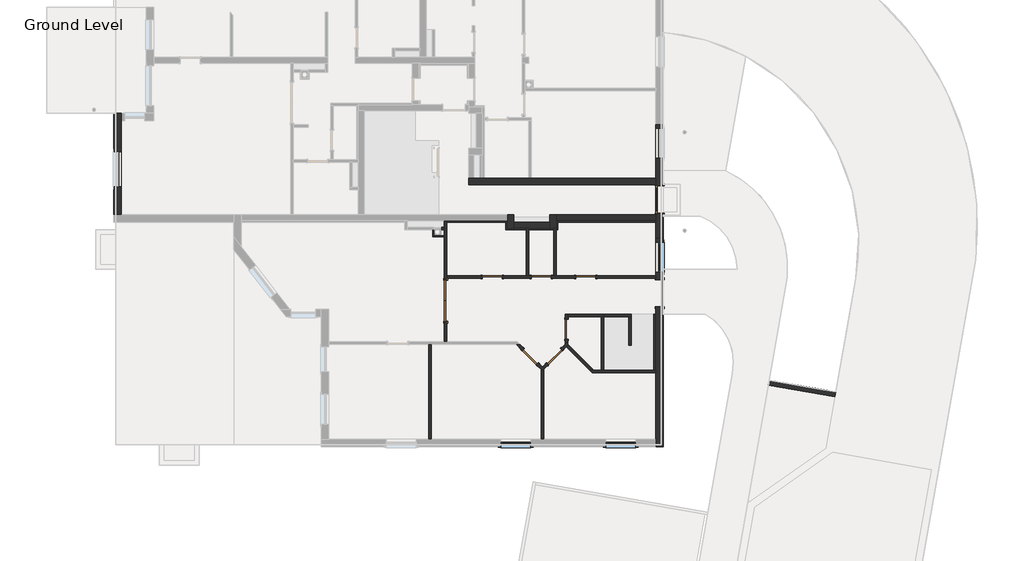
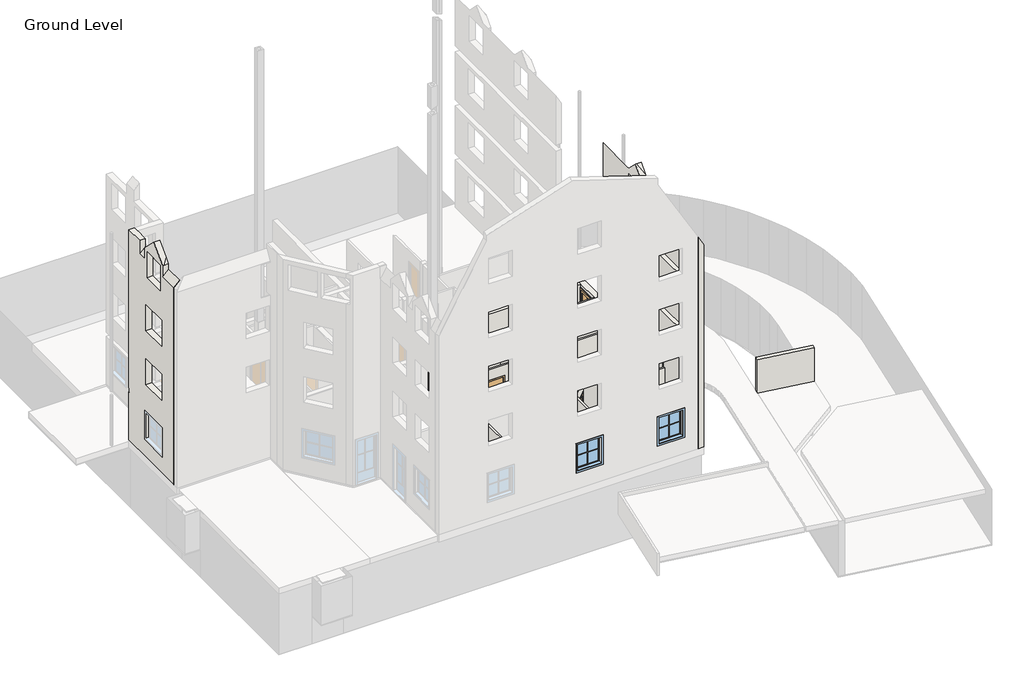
# One storey, part 2 of 6: 34 walls, 9 doors, 3 windows.
"""IFC4 building model written with IfcOpenShell, lengths in millimetres."""

from ifc_helpers import new_model, si_unit, frame, origin, origin_with_axes, place, context, project, spatial, polyline, outline, extrude, faceted_brep, transform, mapped, element, save
from components import m_double_flush_1640_x_2000mm_b55f45f4, m_single_glass_3_1100_x_2400mm_ddb7a374, m_single_glass_3_1100_x_2400mm_4252e609, standard_door_sd_800x2000_6a16926d, standard_door_sd_800x2000_80f4ff25, standard_window_with_mullions_80486b60

model = new_model("IFC4")

# Units and contexts
model_context = context("Model", 3, world=origin())
ifc_project = project(units=[si_unit("LENGTHUNIT", "METRE", prefix="MILLI")], contexts=[model_context])

# Site, building, storey
site = spatial("IfcSite", under=ifc_project)
building = spatial("IfcBuilding", under=site)
storey = spatial("IfcBuildingStorey", under=building, Name="Ground Level", Elevation=0.0)

# Doors
placement = place(None, origin())
m_double_flush_1640_x_2000mm_shape = m_double_flush_1640_x_2000mm_b55f45f4(model_context)
element("IfcDoor", 1, ObjectType="M_Double-Flush : 1640 x 2000mm", at=placement, inside=storey, context=model_context, shape_type="MappedRepresentation", body=[
    mapped(m_double_flush_1640_x_2000mm_shape, transform((642.8037835, -5286.2589377, 0.0), x_axis=(0.0, -1.0, 0.0), y_axis=(1.0, 0.0, 0.0), z_axis=(0.0, 0.0, 1.0))),
])
m_single_glass_3_1100_x_2400mm_shape = m_single_glass_3_1100_x_2400mm_ddb7a374(model_context)
element("IfcDoor", 2, ObjectType="M_Single-Glass 3 : 1100 x 2400mm", at=placement, inside=storey, context=model_context, shape_type="MappedRepresentation", body=[
    mapped(m_single_glass_3_1100_x_2400mm_shape, transform((9212.8087835, -1232.3709459, 0.0), x_axis=(0.0, -1.0, 0.0), y_axis=(1.0, 0.0, 0.0), z_axis=(0.0, 0.0, 1.0))),
])
m_single_glass_3_1100_x_2400mm_2_shape = m_single_glass_3_1100_x_2400mm_4252e609(model_context)
element("IfcDoor", 3, ObjectType="M_Single-Glass 3 : 1100 x 2400mm", at=placement, inside=storey, context=model_context, shape_type="MappedRepresentation", body=[
    mapped(m_single_glass_3_1100_x_2400mm_2_shape, transform((9212.7987835, -4984.0530346, 0.0), x_axis=(0.0, -1.0, 0.0), y_axis=(1.0, 0.0, 0.0), z_axis=(0.0, 0.0, 1.0))),
])
standard_door_sd_800x2000_shape = standard_door_sd_800x2000_6a16926d(model_context)
element("IfcDoor", 4, ObjectType="Standard Door : SD 800x2000", at=placement, inside=storey, context=model_context, shape_type="MappedRepresentation", body=[
    mapped(standard_door_sd_800x2000_shape, transform((4029.418524, -7528.2750083, 0.0), x_axis=(0.7071067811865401, -0.707106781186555, 0.0), y_axis=(0.707106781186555, 0.7071067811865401, 0.0), z_axis=(0.0, 0.0, 1.0))),
])
element("IfcDoor", 5, ObjectType="Standard Door : SD 800x2000", at=placement, inside=storey, context=model_context, shape_type="MappedRepresentation", body=[
    mapped(standard_door_sd_800x2000_shape, transform((2512.8043755, -4332.3709459, 0.0), x_axis=(-1.0, 0.0, 0.0), y_axis=(0.0, -1.0, 0.0), z_axis=(0.0, 0.0, 1.0))),
])
element("IfcDoor", 6, ObjectType="Standard Door : SD 800x2000", at=placement, inside=storey, context=model_context, shape_type="MappedRepresentation", body=[
    mapped(standard_door_sd_800x2000_shape, transform((5476.650957, -6431.4105659, 0.0), x_axis=(0.0, -1.0, 0.0), y_axis=(1.0, 0.0, 0.0), z_axis=(0.0, 0.0, 1.0))),
])
standard_door_sd_800x2000_2_shape = standard_door_sd_800x2000_80f4ff25(model_context)
element("IfcDoor", 7, ObjectType="Standard Door : SD 800x2000", at=placement, inside=storey, context=model_context, shape_type="MappedRepresentation", body=[
    mapped(standard_door_sd_800x2000_2_shape, transform((5000.6899717, -7523.7740796, 0.0), x_axis=(-0.7071067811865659, -0.707106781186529, 0.0), y_axis=(0.707106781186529, -0.7071067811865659, 0.0), z_axis=(0.0, 0.0, 1.0))),
])
element("IfcDoor", 8, ObjectType="Standard Door : SD 800x2000", at=placement, inside=storey, context=model_context, shape_type="MappedRepresentation", body=[
    mapped(standard_door_sd_800x2000_2_shape, transform((6244.2182602, -4332.3709459, 0.0), x_axis=(1.0, 0.0, 0.0), y_axis=(0.0, 1.0, 0.0), z_axis=(0.0, 0.0, 1.0))),
])
element("IfcDoor", 9, ObjectType="Standard Door : SD 800x2000", at=placement, inside=storey, context=model_context, shape_type="MappedRepresentation", body=[
    mapped(standard_door_sd_800x2000_2_shape, transform((4469.5421305, -4332.3709459, 0.0), x_axis=(1.0, 0.0, 0.0), y_axis=(0.0, 1.0, 0.0), z_axis=(0.0, 0.0, 1.0))),
])

# Walls
element("IfcWall", 10, ObjectType="Exterior - 250+50mm", at=placement, inside=storey, context=model_context, shape_type="Brep", body=[
    faceted_brep([(-12337.1962165, 2217.6290541, 0.0), (-12337.1962165, 1917.6290541, 0.0), (-12337.1962165, -1832.3709459, 0.0), (-12637.1962165, -1832.3709459, 0.0), (-12637.1962165, 2217.6290541, 0.0), (-12337.1962165, 2217.6290541, 2630.0), (-12337.1962165, 1917.6290541, 2630.0), (-12337.1962165, -1832.3709459, 2630.0), (-12337.1962165, -720.1346317, 1000.0), (-12337.1962165, -720.1346317, 2400.0), (-12337.1962165, 679.8653683, 2400.0), (-12337.1962165, 679.8653683, 1000.0), (-12337.1962165, -820.1346317, 11350.0), (-12337.1962165, -820.1346317, 11050.0), (-12337.1962165, -1832.3709459, 11050.0), (-12337.1962165, -1832.3709459, 8850.0), (-12337.1962165, 1917.6290541, 8850.0), (-12337.1962165, 2167.6290541, 8850.0), (-12337.1962165, 2167.6290541, 8530.0), (-12337.1962165, 1917.6290541, 8530.0), (-12337.1962165, -1832.3709459, 8530.0), (-12337.1962165, -1832.3709459, 5900.0), (-12337.1962165, 1917.6290541, 5900.0), (-12337.1962165, 2167.6290541, 5900.0), (-12337.1962165, 2167.6290541, 5580.0), (-12337.1962165, 1917.6290541, 5580.0), (-12337.1962165, -1832.3709459, 5580.0), (-12337.1962165, -1832.3709459, 2950.0), (-12337.1962165, 1917.6290541, 2950.0), (-12337.1962165, 2167.6290541, 2950.0), (-12337.1962165, 2167.6290541, 2850.0), (-12337.1962165, 2217.6290541, 2850.0), (-12337.1962165, 2217.6290541, 11480.0), (-12337.1962165, 1917.6290541, 11480.0), (-12337.1962165, 1237.6290541, 11480.0), (-12337.1962165, 1237.6290541, 11050.0), (-12337.1962165, 779.8653683, 11050.0), (-12337.1962165, 779.8653683, 11350.0), (-12337.1962165, 570.7484858, 11559.1168825), (-12337.1962165, -20.1346317, 12150.0), (-12337.1962165, -611.0177493, 11559.1168825), (-12337.1962165, -620.1346317, 9850.0), (-12337.1962165, -620.1346317, 11250.0), (-12337.1962165, 579.8653683, 11250.0), (-12337.1962165, 579.8653683, 9850.0), (-12337.1962165, -720.1346317, 6900.0), (-12337.1962165, -720.1346317, 8300.0), (-12337.1962165, 679.8653683, 8300.0), (-12337.1962165, 679.8653683, 6900.0), (-12337.1962165, -720.1346317, 3950.0), (-12337.1962165, -720.1346317, 5350.0), (-12337.1962165, 679.8653683, 5350.0), (-12337.1962165, 679.8653683, 3950.0), (-12637.1962165, -1832.3709459, 10750.0), (-12637.1962165, -820.1346317, 10750.0), (-12637.1962165, -820.1346317, 11350.0), (-12637.1962165, -20.1346317, 12150.0), (-12637.1962165, 779.8653683, 11350.0), (-12637.1962165, 779.8653683, 10750.0), (-12637.1962165, 1237.6290541, 10750.0), (-12637.1962165, 1237.6290541, 11480.0), (-12637.1962165, 2217.6290541, 11480.0), (-12637.1962165, 2217.6290541, 2850.0), (-12637.1962165, 2167.6290541, 2850.0), (-12637.1962165, 2167.6290541, 2630.0), (-12637.1962165, 2217.6290541, 2630.0), (-12637.1962165, -620.1346317, 11250.0), (-12637.1962165, -620.1346317, 9850.0), (-12637.1962165, 579.8653683, 9850.0), (-12637.1962165, 579.8653683, 11250.0), (-12637.1962165, -720.1346317, 8300.0), (-12637.1962165, -720.1346317, 6900.0), (-12637.1962165, 679.8653683, 6900.0), (-12637.1962165, 679.8653683, 8300.0), (-12637.1962165, -720.1346317, 5350.0), (-12637.1962165, -720.1346317, 3950.0), (-12637.1962165, 679.8653683, 3950.0), (-12637.1962165, 679.8653683, 5350.0), (-12637.1962165, -720.1346317, 2400.0), (-12637.1962165, -720.1346317, 1000.0), (-12637.1962165, 679.8653683, 1000.0), (-12637.1962165, 679.8653683, 2400.0), (-12587.1962165, -1832.3709459, 2630.0), (-12587.1962165, -1832.3709459, 2950.0), (-12587.1962165, -1832.3709459, 5580.0), (-12587.1962165, -1832.3709459, 5900.0), (-12587.1962165, -1832.3709459, 8530.0), (-12587.1962165, -1832.3709459, 8850.0), (-12546.313099, -820.1346317, 11350.0), (-12546.313099, 779.8653683, 11350.0), (-12587.1962165, 2167.6290541, 2630.0), (-12587.1962165, 2167.6290541, 2950.0), (-12587.1962165, 2167.6290541, 2850.0), (-12587.1962165, 2167.6290541, 5580.0), (-12587.1962165, 2167.6290541, 5900.0), (-12587.1962165, 2167.6290541, 8530.0), (-12587.1962165, 2167.6290541, 8850.0)], [[[0, 1, 2, 3, 4]], [[2, 1, 0, 5, 6, 7], [8, 9, 10, 11]], [[12, 13, 14, 15, 16, 17, 18, 19, 20, 21, 22, 23, 24, 25, 26, 27, 28, 29, 30, 31, 32, 33, 34, 35, 36, 37, 38, 39, 40], [41, 42, 43, 44], [45, 46, 47, 48], [49, 50, 51, 52]], [[4, 3, 53, 54, 55, 56, 57, 58, 59, 60, 61, 62, 63, 64, 65], [66, 67, 68, 69], [70, 71, 72, 73], [74, 75, 76, 77], [78, 79, 80, 81]], [[53, 3, 2, 7, 82, 83, 27, 26, 84, 85, 21, 20, 86, 87, 15, 14]], [[0, 4, 65, 5]], [[61, 32, 31, 62]], [[55, 54, 13, 12, 88]], [[37, 36, 58, 57, 89]], [[35, 34, 60, 59]], [[38, 37, 89]], [[36, 35, 59, 58]], [[12, 40, 88]], [[53, 14, 13, 54]], [[55, 88, 40, 39, 56]], [[89, 57, 56, 39, 38]], [[34, 33, 32, 61, 60]], [[42, 41, 67, 66]], [[43, 42, 66, 69]], [[44, 43, 69, 68]], [[41, 44, 68, 67]], [[46, 45, 71, 70]], [[47, 46, 70, 73]], [[48, 47, 73, 72]], [[45, 48, 72, 71]], [[50, 49, 75, 74]], [[51, 50, 74, 77]], [[52, 51, 77, 76]], [[49, 52, 76, 75]], [[9, 8, 79, 78]], [[10, 9, 78, 81]], [[11, 10, 81, 80]], [[8, 11, 80, 79]], [[90, 82, 7, 6, 5, 65, 64]], [[83, 91, 29, 28, 27]], [[82, 90, 92, 91, 83]], [[29, 91, 92, 30]], [[92, 63, 62, 31, 30]], [[90, 64, 63, 92]], [[24, 93, 84, 26, 25]], [[85, 94, 23, 22, 21]], [[93, 94, 85, 84]], [[94, 93, 24, 23]], [[18, 95, 86, 20, 19]], [[87, 96, 17, 16, 15]], [[95, 96, 87, 86]], [[96, 95, 18, 17]]]),
])
element("IfcWall", 11, ObjectType="Exterior - 250+50mm", at=placement, inside=storey, context=model_context, shape_type="Brep", body=[
    faceted_brep([(9062.8037835, 1767.6290541, 0.0), (9062.8037835, 1767.6290541, 2630.0), (9312.8037835, 1767.6290541, 2630.0), (9362.8037835, 1767.6290541, 2630.0), (9362.8037835, 1767.6290541, 0.0), (9062.8037835, -2782.3709459, 2630.0), (9062.8037835, -2782.3709459, 0.0), (9362.8037835, -2782.3709459, 0.0), (9362.8037835, -2782.3709459, 2630.0), (9312.8037835, -2782.3709459, 2630.0), (9062.8037835, -2147.3709459, 0.0), (9062.8037835, -2082.3709459, 0.0), (9062.8037835, -1832.3709459, 0.0), (9062.8037835, -1782.2469294, 0.0), (9362.8037835, -1782.2469294, 0.0), (9062.8037835, -682.2469294, 0.0), (9062.8037835, -632.3709459, 0.0), (9062.8037835, -382.3709459, 0.0), (9362.8037835, -682.2469294, 0.0), (9062.8037835, -1782.2469294, 2400.0), (9062.8037835, -2682.3709459, 2630.0), (9062.8037835, -2147.3709459, 2630.0), (9062.8037835, -2082.3709459, 2630.0), (9062.8037835, -1832.3709459, 2630.0), (9062.8037835, -632.3709459, 2630.0), (9062.8037835, -382.3709459, 2630.0), (9062.8037835, 1667.6290541, 2630.0), (9062.8037835, -682.2469294, 2400.0), (9062.8037835, 1617.6290519, 1000.0), (9062.8037835, 1617.6290519, 2400.0), (9062.8037835, 417.6290519, 2400.0), (9062.8037835, 417.6290519, 1000.0), (9362.8037835, -1782.2469294, 2400.0), (9362.8037835, -682.2469294, 2400.0), (9362.8037835, 1667.6290541, 2630.0), (9362.8037835, -2682.3709459, 2630.0), (9362.8037835, 1617.6290519, 1000.0), (9362.8037835, 417.6290519, 1000.0), (9362.8037835, 417.6290519, 2400.0), (9362.8037835, 1617.6290519, 2400.0)], [[[0, 1, 2, 3, 4]], [[5, 6, 7, 8, 9]], [[6, 10, 11, 12, 13, 14, 7]], [[15, 16, 17, 0, 4, 18]], [[19, 13, 12, 11, 10, 6, 5, 20, 21, 22, 23, 24, 25, 26, 1, 0, 17, 16, 15, 27], [28, 29, 30, 31]], [[7, 14, 32, 33, 18, 4, 3, 34, 35, 8], [36, 37, 38, 39]], [[20, 5, 9, 8, 35]], [[1, 26, 34, 3, 2]], [[26, 25, 24, 23, 22, 21, 20, 35, 34]], [[32, 14, 13, 19]], [[33, 32, 19, 27]], [[18, 33, 27, 15]], [[29, 28, 36, 39]], [[30, 29, 39, 38]], [[31, 30, 38, 37]], [[28, 31, 37, 36]]]),
])
element("IfcWall", 12, ObjectType="Exterior - 250+50mm", at=placement, inside=storey, context=model_context, shape_type="Brep", body=[
    faceted_brep([(9062.8037835, -2782.3709459, 0.0), (9362.8037835, -2782.3709459, 0.0), (9362.8037835, -4433.9290181, 0.0), (9062.8037835, -4433.9290181, 0.0), (9062.8037835, -4382.3709459, 0.0), (9062.8037835, -4282.3709459, 0.0), (9362.8037835, -11132.3709459, 0.0), (9062.8037835, -11132.3709459, 0.0), (9062.8037835, -10832.3709459, 0.0), (9062.8037835, -8162.3709459, 0.0), (9062.8037835, -8062.3709459, 0.0), (9062.8037835, -5533.9290181, 0.0), (9362.8037835, -5533.9290181, 0.0), (9062.8037835, -11132.3709459, 11562.4355653), (9062.8037835, -10832.3709459, 11562.4355653), (9062.8037835, -6324.0530367, 11562.4355653), (9062.8037835, -6111.6174714, 11562.4355653), (9062.8037835, -5524.0530367, 12150.0), (9062.8037835, -5391.6174714, 12017.5644347), (9062.8037835, -4936.488602, 11562.4355653), (9062.8037835, -4724.0530367, 11562.4355653), (9062.8037835, -2632.3709459, 11562.4355653), (9062.8037835, -2632.3709459, 11480.0), (9062.8037835, -2632.3709459, 8850.0), (9062.8037835, -2932.3709459, 8850.0), (9062.8037835, -4602.3709459, 8850.0), (9062.8037835, -4702.3709459, 8850.0), (9062.8037835, -6932.3709459, 8850.0), (9062.8037835, -7032.3709459, 8850.0), (9062.8037835, -10832.3709459, 8850.0), (9062.8037835, -11082.3709459, 8850.0), (9062.8037835, -11082.3709459, 8530.0), (9062.8037835, -10832.3709459, 8530.0), (9062.8037835, -7232.3709459, 8530.0), (9062.8037835, -6982.3709459, 8530.0), (9062.8037835, -2932.3709459, 8530.0), (9062.8037835, -2632.3709459, 8530.0), (9062.8037835, -2632.3709459, 5900.0), (9062.8037835, -2932.3709459, 5900.0), (9062.8037835, -6982.3709459, 5900.0), (9062.8037835, -7232.3709459, 5900.0), (9062.8037835, -10832.3709459, 5900.0), (9062.8037835, -11082.3709459, 5900.0), (9062.8037835, -11082.3709459, 5580.0), (9062.8037835, -10832.3709459, 5580.0), (9062.8037835, -7232.3709459, 5580.0), (9062.8037835, -6982.3709459, 5580.0), (9062.8037835, -2932.3709459, 5580.0), (9062.8037835, -2932.3709459, 2950.0), (9062.8037835, -2782.3709459, 2950.0), (9062.8037835, -2782.3709459, 2630.0), (9062.8037835, -4433.9290181, 2400.0), (9062.8037835, -5533.9290181, 2400.0), (9062.8037835, -4924.0530367, 9850.0), (9062.8037835, -4924.0530367, 11250.0), (9062.8037835, -6124.0530367, 11250.0), (9062.8037835, -6124.0530367, 9850.0), (9062.8037835, -4924.0530367, 6900.0), (9062.8037835, -4924.0530367, 8300.0), (9062.8037835, -6124.0530367, 8300.0), (9062.8037835, -6124.0530367, 6900.0), (9062.8037835, -4924.0530367, 3950.0), (9062.8037835, -4924.0530367, 5350.0), (9062.8037835, -6124.0530367, 5350.0), (9062.8037835, -6124.0530367, 3950.0), (9062.8037835, -2938.2419433, 1000.0), (9062.8037835, -2938.2419433, 2400.0), (9062.8037835, -4138.2419433, 2400.0), (9062.8037835, -4138.2419433, 1000.0), (9362.8037835, -11132.3709459, 11042.820323), (9362.8037835, -5533.9290181, 2400.0), (9362.8037835, -4433.9290181, 2400.0), (9362.8037835, -2782.3709459, 2630.0), (9362.8037835, -2782.3709459, 2950.0), (9362.8037835, -2932.3709459, 2950.0), (9362.8037835, -2932.3709459, 5580.0), (9362.8037835, -2932.3709459, 5900.0), (9362.8037835, -2782.3709459, 5900.0), (9362.8037835, -2632.3709459, 5900.0), (9362.8037835, -2632.3709459, 8530.0), (9362.8037835, -2682.3709459, 8530.0), (9362.8037835, -2782.3709459, 8530.0), (9362.8037835, -2782.3709459, 8850.0), (9362.8037835, -2632.3709459, 8850.0), (9362.8037835, -2632.3709459, 11042.820323), (9362.8037835, -4724.0530367, 11042.820323), (9362.8037835, -4724.0530367, 11350.0), (9362.8037835, -5136.8733598, 11762.820323), (9362.8037835, -5524.0530367, 12150.0), (9362.8037835, -5911.2327137, 11762.820323), (9362.8037835, -6324.0530367, 11350.0), (9362.8037835, -6324.0530367, 11042.820323), (9362.8037835, -4924.0530367, 11250.0), (9362.8037835, -4924.0530367, 9850.0), (9362.8037835, -6124.0530367, 9850.0), (9362.8037835, -6124.0530367, 11250.0), (9362.8037835, -4924.0530367, 8300.0), (9362.8037835, -4924.0530367, 6900.0), (9362.8037835, -6124.0530367, 6900.0), (9362.8037835, -6124.0530367, 8300.0), (9362.8037835, -4924.0530367, 5350.0), (9362.8037835, -4924.0530367, 3950.0), (9362.8037835, -6124.0530367, 3950.0), (9362.8037835, -6124.0530367, 5350.0), (9362.8037835, -2938.2419433, 2400.0), (9362.8037835, -2938.2419433, 1000.0), (9362.8037835, -4138.2419433, 1000.0), (9362.8037835, -4138.2419433, 2400.0), (9312.8037835, -2932.3709459, 5900.0), (9312.8037835, -11082.3709459, 5900.0), (9312.8037835, -2932.3709459, 5580.0), (9185.4535143, -4724.0530367, 11350.0), (9185.4535143, -6324.0530367, 11350.0), (9139.2654927, -5524.0530367, 12150.0), (9312.8037835, -11082.3709459, 5580.0), (9312.8037835, -2782.3709459, 8530.0), (9312.8037835, -11082.3709459, 8530.0), (9312.8037835, -2782.3709459, 8850.0), (9312.8037835, -11082.3709459, 8850.0)], [[[0, 1, 2, 3, 4, 5]], [[6, 7, 8, 9, 10, 11, 12]], [[7, 13, 14, 15, 16, 17, 18, 19, 20, 21, 22, 23, 24, 25, 26, 27, 28, 29, 30, 31, 32, 33, 34, 35, 36, 37, 38, 39, 40, 41, 42, 43, 44, 45, 46, 47, 48, 49, 50, 0, 5, 4, 3, 51, 52, 11, 10, 9, 8], [53, 54, 55, 56], [57, 58, 59, 60], [61, 62, 63, 64], [65, 66, 67, 68]], [[69, 6, 12, 70, 71, 2, 1, 72, 73, 74, 75, 76, 77, 78, 79, 80, 81, 82, 83, 84, 85, 86, 87, 88, 89, 90, 91], [92, 93, 94, 95], [96, 97, 98, 99], [100, 101, 102, 103], [104, 105, 106, 107]], [[13, 7, 6, 69]], [[1, 0, 50, 49, 73, 72]], [[74, 73, 49, 48]], [[37, 78, 77, 76, 108, 109, 42, 41, 40, 39, 38]], [[74, 48, 47, 110, 108, 76, 75]], [[21, 84, 83, 23, 22]], [[78, 37, 36, 79]], [[86, 85, 111]], [[91, 90, 112]], [[89, 88, 113]], [[88, 87, 113]], [[15, 14, 13, 69, 91, 112, 16]], [[90, 89, 113, 17, 16, 112]], [[87, 86, 111, 19, 18, 17, 113]], [[84, 21, 20, 19, 111, 85]], [[70, 12, 11, 52]], [[71, 70, 52, 51]], [[2, 71, 51, 3]], [[53, 93, 92, 54]], [[54, 92, 95, 55]], [[55, 95, 94, 56]], [[93, 53, 56, 94]], [[58, 57, 97, 96]], [[59, 58, 96, 99]], [[60, 59, 99, 98]], [[57, 60, 98, 97]], [[62, 61, 101, 100]], [[63, 62, 100, 103]], [[64, 63, 103, 102]], [[61, 64, 102, 101]], [[66, 65, 105, 104]], [[67, 66, 104, 107]], [[68, 67, 107, 106]], [[65, 68, 106, 105]], [[43, 114, 110, 47, 46, 45, 44]], [[114, 109, 108, 110]], [[109, 114, 43, 42]], [[115, 81, 80, 79, 36, 35, 34, 33, 32, 31, 116]], [[117, 118, 30, 29, 28, 27, 26, 25, 24, 23, 83, 82]], [[81, 115, 117, 82]], [[115, 116, 118, 117]], [[118, 116, 31, 30]]]),
])
element("IfcWall", 13, ObjectType="Interior - 100mm", at=placement, inside=storey, context=model_context, shape_type="Brep", body=[
    faceted_brep([(592.8037835, -6932.3709459, 0.0), (592.8037835, -6106.2589377, 0.0), (692.8037835, -6106.2589377, 0.0), (692.8037835, -6932.3709459, 0.0), (592.8037835, -4466.2589377, 0.0), (592.8037835, -2712.3709459, 0.0), (592.8037835, -2682.3709459, 0.0), (592.8037835, -2432.3709459, 0.0), (592.8037835, -2332.3709459, 0.0), (592.8037835, -2082.3709459, 0.0), (692.8037835, -2082.3709459, 0.0), (692.8037835, -2147.3709459, 0.0), (692.8037835, -4466.2589377, 0.0), (592.8037835, -6106.2589377, 2000.0), (592.8037835, -6932.3709459, 2630.0), (592.8037835, -2432.3709459, 2630.0), (592.8037835, -2332.3709459, 2630.0), (592.8037835, -2082.3709459, 2630.0), (592.8037835, -4466.2589377, 2000.0), (692.8037835, -6106.2589377, 2000.0), (692.8037835, -4466.2589377, 2000.0), (692.8037835, -2082.3709459, 2630.0), (692.8037835, -2147.3709459, 2630.0), (692.8037835, -6932.3709459, 2630.0)], [[[0, 1, 2, 3]], [[4, 5, 6, 7, 8, 9, 10, 11, 12]], [[13, 1, 0, 14, 15, 16, 17, 9, 8, 7, 6, 5, 4, 18]], [[3, 2, 19, 20, 12, 11, 10, 21, 22, 23]], [[9, 17, 21, 10]], [[14, 0, 3, 23]], [[17, 16, 15, 14, 23, 22, 21]], [[19, 2, 1, 13]], [[20, 19, 13, 18]], [[12, 20, 18, 4]]]),
])
element("IfcWall", 14, ObjectType="Interior - 100mm", at=placement, inside=storey, context=model_context, shape_type="Brep", body=[
    faceted_brep([(4562.8037835, -8132.3709459, 0.0), (4462.8037835, -8032.3709459, 0.0), (4276.9058974, -7846.4730598, 0.0), (4347.6165755, -7775.7623817, 0.0), (4512.8037835, -7940.9495897, 0.0), (4562.8037835, -7990.9495897, 0.0), (4562.8037835, -8032.3709459, 0.0), (3711.2204724, -7280.7876349, 0.0), (3462.8037835, -7032.3709459, 0.0), (3604.2251397, -7032.3709459, 0.0), (3781.9311505, -7210.0769568, 0.0), (4276.9058974, -7846.4730598, 2000.0), (4562.8037835, -8132.3709459, 2630.0), (4462.8037835, -8032.3709459, 2630.0), (3462.8037835, -7032.3709459, 2630.0), (3711.2204724, -7280.7876349, 2000.0), (4347.6165755, -7775.7623817, 2000.0), (3781.9311505, -7210.0769568, 2000.0), (3604.2251397, -7032.3709459, 2630.0), (4512.8037835, -7940.9495897, 2630.0), (4562.8037835, -7990.9495897, 2630.0), (4562.8037835, -8032.3709459, 2630.0)], [[[0, 1, 2, 3, 4, 5, 6]], [[7, 8, 9, 10]], [[11, 2, 1, 0, 12, 13, 14, 8, 7, 15]], [[5, 4, 3, 16, 17, 10, 9, 18, 19, 20]], [[8, 14, 18, 9]], [[12, 0, 6, 5, 20, 21]], [[14, 13, 12, 21, 20, 19, 18]], [[16, 3, 2, 11]], [[17, 16, 11, 15]], [[10, 17, 15, 7]]]),
])
element("IfcWall", 15, ObjectType="Interior - 100mm", at=placement, inside=storey, context=model_context, shape_type="SweptSolid", body=[
    extrude(outline(polyline([(4462.8037835, -10832.3709459), (4462.8037835, -8032.3709459), (4562.8037835, -8132.3709459), (4562.8037835, -10832.3709459), (4462.8037835, -10832.3709459)])), origin_with_axes(), (0.0, 0.0, 1.0), 2630.0),
])
element("IfcWall", 16, ObjectType="Interior - 100mm", at=placement, inside=storey, context=model_context, shape_type="Brep", body=[
    faceted_brep([(4512.8037835, -7940.9495897, 0.0), (4682.4919202, -7771.261453, 0.0), (4753.2025983, -7841.9721311, 0.0), (4562.8037835, -8032.3709459, 0.0), (4562.8037835, -7990.9495897, 0.0), (5248.1773451, -7205.576028, 0.0), (5426.650957, -7027.1024161, 0.0), (5526.650957, -6927.1024161, 0.0), (5526.650957, -7027.1024161, 0.0), (5526.650957, -7068.5237723, 0.0), (5476.650957, -7118.5237723, 0.0), (5318.8880232, -7276.2867062, 0.0), (4753.2025983, -7841.9721311, 2000.0), (5318.8880232, -7276.2867062, 2000.0), (5526.650957, -7068.5237723, 2630.0), (5476.650957, -7118.5237723, 2630.0), (4562.8037835, -8032.3709459, 2630.0), (4682.4919202, -7771.261453, 2000.0), (4512.8037835, -7940.9495897, 2630.0), (5426.650957, -7027.1024161, 2630.0), (5526.650957, -6927.1024161, 2630.0), (5248.1773451, -7205.576028, 2000.0), (4562.8037835, -7990.9495897, 2630.0), (5526.650957, -7027.1024161, 2630.0)], [[[0, 1, 2, 3, 4]], [[5, 6, 7, 8, 9, 10, 11]], [[3, 2, 12, 13, 11, 10, 9, 14, 15, 16]], [[17, 1, 0, 18, 19, 20, 7, 6, 5, 21]], [[3, 16, 22, 4]], [[22, 18, 0, 4]], [[14, 9, 8, 7, 20, 23]], [[16, 15, 14, 23, 20, 19, 18, 22]], [[12, 2, 1, 17]], [[13, 12, 17, 21]], [[11, 13, 21, 5]]]),
])
element("IfcWall", 17, ObjectType="Interior - 100mm", at=placement, inside=storey, context=model_context, shape_type="Brep", body=[
    faceted_brep([(5426.650957, -7027.1024161, 0.0), (5426.650957, -6831.4105659, 0.0), (5526.650957, -6831.4105659, 0.0), (5526.650957, -6927.1024161, 0.0), (5426.650957, -6031.4105659, 0.0), (5426.650957, -5832.3709459, 0.0), (5526.650957, -5832.3709459, 0.0), (5526.650957, -5932.3709459, 0.0), (5526.650957, -6031.4105659, 0.0), (5526.650957, -6831.4105659, 2000.0), (5526.650957, -6031.4105659, 2000.0), (5526.650957, -5832.3709459, 2630.0), (5526.650957, -5932.3709459, 2630.0), (5526.650957, -6927.1024161, 2630.0), (5426.650957, -6831.4105659, 2000.0), (5426.650957, -7027.1024161, 2630.0), (5426.650957, -5832.3709459, 2630.0), (5426.650957, -6031.4105659, 2000.0)], [[[0, 1, 2, 3]], [[4, 5, 6, 7, 8]], [[3, 2, 9, 10, 8, 7, 6, 11, 12, 13]], [[14, 1, 0, 15, 16, 5, 4, 17]], [[3, 13, 15, 0]], [[11, 6, 5, 16]], [[13, 12, 11, 16, 15]], [[9, 2, 1, 14]], [[10, 9, 14, 17]], [[8, 10, 17, 4]]]),
])
element("IfcWall", 18, ObjectType="Interior - 100mm", at=placement, inside=storey, context=model_context, shape_type="Brep", body=[
    faceted_brep([(5526.650957, -5932.3709459, 0.0), (6862.8037835, -5932.3709459, 0.0), (6962.8037835, -5932.3709459, 0.0), (6962.8037835, -5932.3709459, 2630.0), (6862.8037835, -5932.3709459, 2630.0), (5526.650957, -5932.3709459, 2630.0), (5526.650957, -5832.3709459, 0.0), (5526.650957, -5832.3709459, 2630.0), (6962.8037835, -5832.3709459, 2630.0), (6962.8037835, -5832.3709459, 0.0)], [[[0, 1, 2, 3, 4, 5]], [[6, 7, 8, 9]], [[2, 1, 0, 6, 9]], [[3, 2, 9, 8]], [[0, 5, 7, 6]], [[5, 4, 3, 8, 7]]]),
])
element("IfcWall", 19, ObjectType="Interior - 100mm", at=placement, inside=storey, context=model_context, shape_type="SweptSolid", body=[
    extrude(outline(polyline([(6862.8037835, -8062.3709459), (6862.8037835, -5932.3709459), (6962.8037835, -5932.3709459), (6962.8037835, -8062.3709459), (6862.8037835, -8062.3709459)])), origin_with_axes(), (0.0, 0.0, 1.0), 2630.0),
])
element("IfcWall", 20, ObjectType="Interior - 100mm", at=placement, inside=storey, context=model_context, shape_type="Brep", body=[
    faceted_brep([(6520.4981306, -8162.3709459, 0.0), (9062.8037835, -8162.3709459, 0.0), (9062.8037835, -8162.3709459, 2630.0), (6520.4981306, -8162.3709459, 2630.0), (6420.4981306, -8062.3709459, 0.0), (6420.4981306, -8062.3709459, 2630.0), (6561.9194868, -8062.3709459, 2630.0), (6862.8037835, -8062.3709459, 2630.0), (6962.8037835, -8062.3709459, 2630.0), (9062.8037835, -8062.3709459, 2630.0), (9062.8037835, -8062.3709459, 0.0), (8982.8088399, -8062.3709459, 0.0), (6962.8037835, -8062.3709459, 0.0), (6862.8037835, -8062.3709459, 0.0), (6561.9194868, -8062.3709459, 0.0)], [[[0, 1, 2, 3]], [[4, 5, 6, 7, 8, 9, 10, 11, 12, 13, 14]], [[1, 0, 4, 14, 13, 12, 11, 10]], [[0, 3, 5, 4]], [[2, 1, 10, 9]], [[3, 2, 9, 8, 7, 6, 5]]]),
])
element("IfcWall", 21, ObjectType="Interior - 100mm", at=placement, inside=storey, context=model_context, shape_type="SweptSolid", body=[
    extrude(outline(polyline([(5526.650957, -7027.1024161), (6561.9194868, -8062.3709459), (6420.4981306, -8062.3709459), (5476.650957, -7118.5237723), (5526.650957, -7068.5237723), (5526.650957, -7027.1024161)])), origin_with_axes(), (0.0, 0.0, 1.0), 2630.0),
])
element("IfcWall", 22, ObjectType="Interior - 100mm", at=placement, inside=storey, context=model_context, shape_type="Brep", body=[
    faceted_brep([(712.8037835, -4282.3709459, 2630.0), (712.8037835, -4282.3709459, 0.0), (712.8037835, -4382.3709459, 0.0), (712.8037835, -4382.3709459, 2630.0), (9062.8037835, -4382.3709459, 0.0), (6644.2182602, -4382.3709459, 0.0), (6644.2182602, -4282.3709459, 0.0), (9062.8037835, -4282.3709459, 0.0), (2112.8043755, -4282.3709459, 0.0), (2112.8043755, -4382.3709459, 0.0), (5844.2182602, -4382.3709459, 0.0), (4869.5421305, -4382.3709459, 0.0), (4869.5421305, -4282.3709459, 0.0), (4962.8037835, -4282.3709459, 0.0), (5062.8037835, -4282.3709459, 0.0), (5844.2182602, -4282.3709459, 0.0), (4069.5421305, -4382.3709459, 0.0), (2912.8043755, -4382.3709459, 0.0), (2912.8043755, -4282.3709459, 0.0), (3862.8037835, -4282.3709459, 0.0), (3962.8037835, -4282.3709459, 0.0), (4069.5421305, -4282.3709459, 0.0), (4869.5421305, -4282.3709459, 2000.0), (4069.5421305, -4282.3709459, 2000.0), (2912.8043755, -4282.3709459, 2000.0), (2112.8043755, -4282.3709459, 2000.0), (3862.8037835, -4282.3709459, 2630.0), (3962.8037835, -4282.3709459, 2630.0), (4962.8037835, -4282.3709459, 2630.0), (5062.8037835, -4282.3709459, 2630.0), (9062.8037835, -4282.3709459, 2630.0), (6644.2182602, -4282.3709459, 2000.0), (5844.2182602, -4282.3709459, 2000.0), (4869.5421305, -4382.3709459, 2000.0), (5844.2182602, -4382.3709459, 2000.0), (6644.2182602, -4382.3709459, 2000.0), (9062.8037835, -4382.3709459, 2630.0), (2112.8043755, -4382.3709459, 2000.0), (2912.8043755, -4382.3709459, 2000.0), (4069.5421305, -4382.3709459, 2000.0)], [[[0, 1, 2, 3]], [[4, 5, 6, 7]], [[1, 8, 9, 2]], [[10, 11, 12, 13, 14, 15]], [[16, 17, 18, 19, 20, 21]], [[15, 14, 13, 12, 22, 23, 21, 20, 19, 18, 24, 25, 8, 1, 0, 26, 27, 28, 29, 30, 7, 6, 31, 32]], [[33, 11, 10, 34, 35, 5, 4, 36, 3, 2, 9, 37, 38, 17, 16, 39]], [[7, 30, 36, 4]], [[30, 29, 28, 27, 26, 0, 3, 36]], [[31, 6, 5, 35]], [[32, 31, 35, 34]], [[15, 32, 34, 10]], [[37, 9, 8, 25]], [[38, 37, 25, 24]], [[17, 38, 24, 18]], [[22, 12, 11, 33]], [[23, 22, 33, 39]], [[21, 23, 39, 16]]]),
])
element("IfcWall", 23, ObjectType="Interior - 100mm", at=placement, inside=storey, context=model_context, shape_type="Brep", body=[
    faceted_brep([(3862.8037835, -2382.3709459, 0.0), (3862.8037835, -2447.3709459, 0.0), (3862.8037835, -4282.3709459, 0.0), (3862.8037835, -4282.3709459, 2630.0), (3862.8037835, -2447.3709459, 2630.0), (3862.8037835, -2382.3709459, 2630.0), (3962.8037835, -2382.3709459, 0.0), (3962.8037835, -2382.3709459, 2630.0), (3962.8037835, -2447.3709459, 2630.0), (3962.8037835, -4282.3709459, 2630.0), (3962.8037835, -4282.3709459, 0.0), (3962.8037835, -2447.3709459, 0.0)], [[[0, 1, 2, 3, 4, 5]], [[6, 7, 8, 9, 10, 11]], [[2, 1, 0, 6, 11, 10]], [[0, 5, 7, 6]], [[3, 2, 10, 9]], [[5, 4, 3, 9, 8, 7]]]),
])
element("IfcWall", 24, ObjectType="Interior - 100mm", at=placement, inside=storey, context=model_context, shape_type="Brep", body=[
    faceted_brep([(4962.8037835, -2382.3709459, 0.0), (4962.8037835, -2447.3709459, 0.0), (4962.8037835, -4282.3709459, 0.0), (4962.8037835, -4282.3709459, 2630.0), (4962.8037835, -2447.3709459, 2630.0), (4962.8037835, -2382.3709459, 2630.0), (5062.8037835, -2382.3709459, 0.0), (5062.8037835, -2382.3709459, 2630.0), (5062.8037835, -4282.3709459, 2630.0), (5062.8037835, -4282.3709459, 0.0)], [[[0, 1, 2, 3, 4, 5]], [[6, 7, 8, 9]], [[2, 1, 0, 6, 9]], [[3, 2, 9, 8]], [[0, 5, 7, 6]], [[5, 4, 3, 8, 7]]]),
])
element("IfcWall", 25, ObjectType="Interior - 100mm", at=placement, inside=storey, context=model_context, shape_type="SweptSolid", body=[
    extrude(outline(polyline([(-37.1962165, -10832.3709459), (-37.1962165, -7032.3709459), (62.8037835, -7032.3709459), (62.8037835, -10832.3709459), (-37.1962165, -10832.3709459)])), origin_with_axes(), (0.0, 0.0, 1.0), 2630.0),
])
element("IfcWall", 26, ObjectType="Interior - 100mm", at=placement, inside=storey, context=model_context, shape_type="SweptSolid", body=[
    extrude(outline(polyline([(592.8037835, -2432.3709459), (478.5618728, -2432.3709459), (478.5618728, -2332.3709459), (592.8037835, -2332.3709459), (592.8037835, -2432.3709459)])), origin_with_axes(), (0.0, 0.0, 1.0), 2630.0),
])
element("IfcWall", 27, ObjectType="Interior - 100mm", at=placement, inside=storey, context=model_context, shape_type="Brep", body=[
    faceted_brep([(6962.8037835, -5932.3709459, 0.0), (7976.4088399, -5932.3709459, 0.0), (8076.4088399, -5932.3709459, 0.0), (8076.4088399, -5932.3709459, 2950.0), (7976.4088399, -5932.3709459, 2950.0), (6962.8037835, -5932.3709459, 2950.0), (6962.8037835, -5932.3709459, 2630.0), (6962.8037835, -5832.3709459, 0.0), (6962.8037835, -5832.3709459, 2630.0), (6962.8037835, -5832.3709459, 2950.0), (8076.4088399, -5832.3709459, 2950.0), (8076.4088399, -5832.3709459, 0.0)], [[[0, 1, 2, 3, 4, 5, 6]], [[7, 8, 9, 10, 11]], [[2, 1, 0, 7, 11]], [[5, 4, 3, 10, 9]], [[3, 2, 11, 10]], [[0, 6, 5, 9, 8, 7]]]),
])
element("IfcWall", 28, ObjectType="Interior - 100mm", at=placement, inside=storey, context=model_context, shape_type="SweptSolid", body=[
    extrude(outline(polyline([(7976.4088399, -7062.3709459), (7976.4088399, -5932.3709459), (8076.4088399, -5932.3709459), (8076.4088399, -7062.3709459), (7976.4088399, -7062.3709459)])), origin_with_axes(), (0.0, 0.0, 1.0), 2950.0),
])
element("IfcWall", 29, ObjectType="Interior - 250mm", at=placement, inside=storey, context=model_context, shape_type="Brep", body=[
    faceted_brep([(9062.8037835, -382.3709459, 0.0), (4062.8037835, -382.3709459, 0.0), (3962.8037835, -382.3709459, 0.0), (2177.8037835, -382.3709459, 0.0), (2112.8037835, -382.3709459, 0.0), (2012.8037835, -382.3709459, 0.0), (1762.8088399, -382.3709459, 0.0), (1562.8088399, -382.3709459, 0.0), (1562.8088399, -382.3709459, 2630.0), (1762.8087381, -382.3709459, 2630.0), (2012.8037835, -382.3709459, 2630.0), (2112.8037835, -382.3709459, 2630.0), (2177.8037835, -382.3709459, 2630.0), (3962.8037835, -382.3709459, 2630.0), (4062.8037835, -382.3709459, 2630.0), (8062.8037835, -382.3709459, 2630.0), (9062.8037835, -382.3709459, 2630.0), (9062.8037835, -632.3709459, 0.0), (9062.8037835, -632.3709459, 2630.0), (8062.8037835, -632.3709459, 2630.0), (3712.8037835, -632.3709459, 2630.0), (3412.8037835, -632.3709459, 2630.0), (1562.8088399, -632.3709459, 2630.0), (1562.8088399, -632.3709459, 0.0)], [[[0, 1, 2, 3, 4, 5, 6, 7, 8, 9, 10, 11, 12, 13, 14, 15, 16]], [[17, 18, 19, 20, 21, 22, 23]], [[7, 6, 5, 4, 3, 2, 1, 0, 17, 23]], [[8, 7, 23, 22]], [[0, 16, 18, 17]], [[16, 15, 19, 18]], [[15, 14, 13, 12, 11, 10, 9, 8, 22, 21, 20, 19]]]),
])
element("IfcWall", 30, ObjectType="Interior - 250mm", at=placement, inside=storey, context=model_context, shape_type="Brep", body=[
    faceted_brep([(3112.8037835, -1832.3709459, 0.0), (3112.8037835, -2082.3709459, 0.0), (3112.8037835, -2382.3709459, 0.0), (3112.8037835, -2382.3709459, 2630.0), (3112.8037835, -2082.3709459, 2630.0), (3112.8037835, -1832.3709459, 2630.0), (3362.8037835, -1832.3709459, 0.0), (3362.8037835, -1832.3709459, 2630.0), (3362.8037835, -2132.3709459, 2630.0), (3362.8037835, -2382.3709459, 2630.0), (3362.8037835, -2382.3709459, 0.0), (3362.8037835, -2132.3709459, 0.0)], [[[0, 1, 2, 3, 4, 5]], [[6, 7, 8, 9, 10, 11]], [[2, 1, 0, 6, 11, 10]], [[0, 5, 7, 6]], [[3, 2, 10, 9]], [[5, 4, 3, 9, 8, 7]]]),
])
element("IfcWall", 31, ObjectType="Interior - 250mm", at=placement, inside=storey, context=model_context, shape_type="Brep", body=[
    faceted_brep([(3362.8037835, -2382.3709459, 0.0), (3862.8037835, -2382.3709459, 0.0), (3962.8037835, -2382.3709459, 0.0), (4812.8037835, -2382.3709459, 0.0), (4812.8037835, -2382.3709459, 2630.0), (3962.8037835, -2382.3709459, 2630.0), (3862.8037835, -2382.3709459, 2630.0), (3362.8037835, -2382.3709459, 2630.0), (3362.8037835, -2132.3709459, 0.0), (3362.8037835, -2132.3709459, 2630.0), (4812.8037835, -2132.3709459, 2630.0), (4812.8037835, -2132.3709459, 0.0)], [[[0, 1, 2, 3, 4, 5, 6, 7]], [[8, 9, 10, 11]], [[3, 2, 1, 0, 8, 11]], [[0, 7, 9, 8]], [[4, 3, 11, 10]], [[7, 6, 5, 4, 10, 9]]]),
])
element("IfcWall", 32, ObjectType="Interior - 250mm", at=placement, inside=storey, context=model_context, shape_type="Brep", body=[
    faceted_brep([(5062.8037835, -2382.3709459, 0.0), (5062.8037835, -2082.3709459, 0.0), (5062.8037835, -1832.3709459, 0.0), (5062.8037835, -1832.3709459, 2630.0), (5062.8037835, -2082.3709459, 2630.0), (5062.8037835, -2382.3709459, 2630.0), (4812.8037835, -2382.3709459, 0.0), (4812.8037835, -2382.3709459, 2630.0), (4812.8037835, -2132.3709459, 2630.0), (4812.8037835, -1832.3709459, 2630.0), (4812.8037835, -1832.3709459, 0.0), (4812.8037835, -2132.3709459, 0.0)], [[[0, 1, 2, 3, 4, 5]], [[6, 7, 8, 9, 10, 11]], [[2, 1, 0, 6, 11, 10]], [[0, 5, 7, 6]], [[3, 2, 10, 9]], [[5, 4, 3, 9, 8, 7]]]),
])
element("IfcWall", 33, ObjectType="Interior - 250mm", at=placement, inside=storey, context=model_context, shape_type="SweptSolid", body=[
    extrude(outline(polyline([(0.0, 5062.8037835), (0.0, 9062.8037835), (2630.0, 9062.8037835), (2630.0, 8062.8037835), (2630.0, 5062.8037835), (0.0, 5062.8037835)])), frame((0.0, -2082.3709459, 0.0), z_axis=(0.0, 1.0, 0.0), x_axis=(0.0, 0.0, 1.0)), (0.0, 0.0, 1.0), 250.0),
])
element("IfcWall", 34, ObjectType="Interior - 300mm", at=placement, inside=storey, context=model_context, shape_type="Brep", body=[
    faceted_brep([(133.5618728, -2432.3709459, 0.0), (133.5618728, -2712.3709459, 0.0), (133.5618728, -2712.3709459, 2950.0), (133.5618728, -2432.3709459, 2950.0), (163.5618728, -2432.3709459, 0.0), (163.5618728, -2432.3709459, 2630.0), (163.5618728, -2432.3709459, 2950.0), (163.5618728, -2682.3709459, 2950.0), (163.5618728, -2712.3709459, 2950.0), (163.5618728, -2712.3709459, 0.0), (163.5618728, -2682.3709459, 0.0)], [[[0, 1, 2, 3]], [[4, 5, 6, 7, 8, 9, 10]], [[1, 0, 4, 10, 9]], [[3, 2, 8, 7, 6]], [[2, 1, 9, 8]], [[0, 3, 6, 5, 4]]]),
])
element("IfcWall", 35, ObjectType="Interior - 300mm", at=placement, inside=storey, context=model_context, shape_type="SweptSolid", body=[
    extrude(outline(polyline([(592.8037835, -2712.3709459), (163.5618728, -2712.3709459), (163.5618728, -2682.3709459), (592.8037835, -2682.3709459), (592.8037835, -2712.3709459)])), origin_with_axes(), (0.0, 0.0, 1.0), 2950.0),
])
element("IfcWall", 36, ObjectType="Interior - 65mm", at=placement, inside=storey, context=model_context, shape_type="Brep", body=[
    faceted_brep([(692.8037835, -2147.3709459, 0.0), (3047.8037835, -2147.3709459, 0.0), (3112.8037835, -2147.3709459, 0.0), (3112.8037835, -2147.3709459, 2630.0), (3047.8037835, -2147.3709459, 2630.0), (692.8037835, -2147.3709459, 2630.0), (692.8037835, -2082.3709459, 0.0), (692.8037835, -2082.3709459, 2630.0), (3112.8037835, -2082.3709459, 2630.0), (3112.8037835, -2082.3709459, 0.0)], [[[0, 1, 2, 3, 4, 5]], [[6, 7, 8, 9]], [[2, 1, 0, 6, 9]], [[3, 2, 9, 8]], [[0, 5, 7, 6]], [[5, 4, 3, 8, 7]]]),
])
element("IfcWall", 37, ObjectType="Interior - 65mm", at=placement, inside=storey, context=model_context, shape_type="Brep", body=[
    faceted_brep([(3047.8037835, -2147.3709459, 0.0), (3047.8037835, -2447.3709459, 0.0), (3047.8037835, -2447.3709459, 2630.0), (3047.8037835, -2147.3709459, 2630.0), (3112.8037835, -2147.3709459, 0.0), (3112.8037835, -2147.3709459, 2630.0), (3112.8037835, -2382.3709459, 2630.0), (3112.8037835, -2447.3709459, 2630.0), (3112.8037835, -2447.3709459, 0.0), (3112.8037835, -2382.3709459, 0.0)], [[[0, 1, 2, 3]], [[4, 5, 6, 7, 8, 9]], [[1, 0, 4, 9, 8]], [[2, 1, 8, 7]], [[0, 3, 5, 4]], [[3, 2, 7, 6, 5]]]),
])
element("IfcWall", 38, ObjectType="Interior - 65mm", at=placement, inside=storey, context=model_context, shape_type="SweptSolid", body=[
    extrude(outline(polyline([(3862.8037835, -2447.3709459), (3112.8037835, -2447.3709459), (3112.8037835, -2382.3709459), (3862.8037835, -2382.3709459), (3862.8037835, -2447.3709459)])), origin_with_axes(), (0.0, 0.0, 1.0), 2630.0),
])
element("IfcWall", 39, ObjectType="Interior - 65mm", at=placement, inside=storey, context=model_context, shape_type="SweptSolid", body=[
    extrude(outline(polyline([(4962.8037835, -2447.3709459), (3962.8037835, -2447.3709459), (3962.8037835, -2382.3709459), (4962.8037835, -2382.3709459), (4962.8037835, -2447.3709459)])), origin_with_axes(), (0.0, 0.0, 1.0), 2630.0),
])
element("IfcWall", 40, ObjectType="Interior - 65mm", at=placement, inside=storey, context=model_context, shape_type="Brep", body=[
    faceted_brep([(5127.8037835, -2447.3709459, 0.0), (5127.8037835, -2147.3709459, 0.0), (5127.8037835, -2082.3709459, 0.0), (5127.8037835, -2082.3709459, 2630.0), (5127.8037835, -2147.3709459, 2630.0), (5127.8037835, -2447.3709459, 2630.0), (5062.8037835, -2447.3709459, 0.0), (5062.8037835, -2447.3709459, 2630.0), (5062.8037835, -2082.3709459, 2630.0), (5062.8037835, -2082.3709459, 0.0)], [[[0, 1, 2, 3, 4, 5]], [[6, 7, 8, 9]], [[2, 1, 0, 6, 9]], [[0, 5, 7, 6]], [[3, 2, 9, 8]], [[5, 4, 3, 8, 7]]]),
])
element("IfcWall", 41, ObjectType="Interior - 65mm", at=placement, inside=storey, context=model_context, shape_type="SweptSolid", body=[
    extrude(outline(polyline([(0.0, 5127.8037835), (0.0, 9062.8037835), (2630.0, 9062.8037835), (2630.0, 8062.8037835), (2630.0, 5127.8037835), (0.0, 5127.8037835)])), frame((0.0, -2147.3709459, 0.0), z_axis=(0.0, 1.0, 0.0), x_axis=(0.0, 0.0, 1.0)), (0.0, 0.0, 1.0), 65.0),
])
element("IfcWall", 42, ObjectType="Interior - 80mm", at=placement, inside=storey, context=model_context, shape_type="Brep", body=[
    faceted_brep([(8982.8088399, -5832.3709459, 0.0), (8982.8088399, -8062.3709459, 0.0), (8982.8088399, -8062.3709459, 2950.0), (8982.8088399, -5832.3709459, 2950.0), (9062.8088399, -5832.3709459, 0.0), (9062.8088399, -5832.3709459, 2950.0), (9062.8088399, -8062.3709459, 2950.0), (9062.8088399, -8062.3709459, 2630.0), (9062.8088399, -8062.3709459, 0.0)], [[[0, 1, 2, 3]], [[4, 5, 6, 7, 8]], [[1, 0, 4, 8]], [[3, 2, 6, 5]], [[0, 3, 5, 4]], [[2, 1, 8, 7, 6]]]),
])
element("IfcWall", 43, ObjectType="Interior - CMU 200mm", at=placement, inside=storey, context=model_context, shape_type="Brep", body=[
    faceted_brep([(16262.7280726, -8934.2449693, 1800.0), (16262.7280726, -8934.2449693, 1000.0), (16262.7280726, -8934.2449693, -1000.0), (13590.5523257, -8463.068288, -1000.0), (13590.5523257, -8463.068288, 1800.0), (16227.9984371, -9131.2065199, -1000.0), (16227.9984371, -9131.2065199, 1800.0), (13555.8226902, -8660.0298386, 1800.0), (13555.8226902, -8660.0298386, -1000.0)], [[[0, 1, 2, 3, 4]], [[5, 6, 7, 8]], [[3, 2, 5, 8]], [[4, 3, 8, 7]], [[0, 6, 5, 2, 1]], [[0, 4, 7, 6]]]),
])

# Windows
standard_window_with_mullions_shape = standard_window_with_mullions_80486b60(model_context)
element("IfcWindow", 44, ObjectType="Standard Window with mullions : 1200/1400", at=placement, inside=storey, context=model_context, shape_type="MappedRepresentation", body=[
    mapped(standard_window_with_mullions_shape, transform((3453.0392115, -10982.3709459, 0.0), x_axis=(-1.0, 0.0, 0.0), y_axis=(0.0, -1.0, 0.0), z_axis=(0.0, 0.0, 1.0))),
])
element("IfcWindow", 45, ObjectType="Standard Window with mullions : 1200/1400", at=placement, inside=storey, context=model_context, shape_type="MappedRepresentation", body=[
    mapped(standard_window_with_mullions_shape, transform((7657.145058, -10982.3709459, 0.0), x_axis=(-1.0, 0.0, 0.0), y_axis=(0.0, -1.0, 0.0), z_axis=(0.0, 0.0, 1.0))),
])
element("IfcWindow", 46, ObjectType="Standard Window with mullions : 1200/1400", at=placement, inside=storey, context=model_context, shape_type="MappedRepresentation", body=[
    mapped(standard_window_with_mullions_shape, transform((9212.8037835, -3538.2419433, 0.0), x_axis=(0.0, -1.0, 0.0), y_axis=(1.0, 0.0, 0.0), z_axis=(0.0, 0.0, 1.0))),
])

save(model, "model.ifc")
